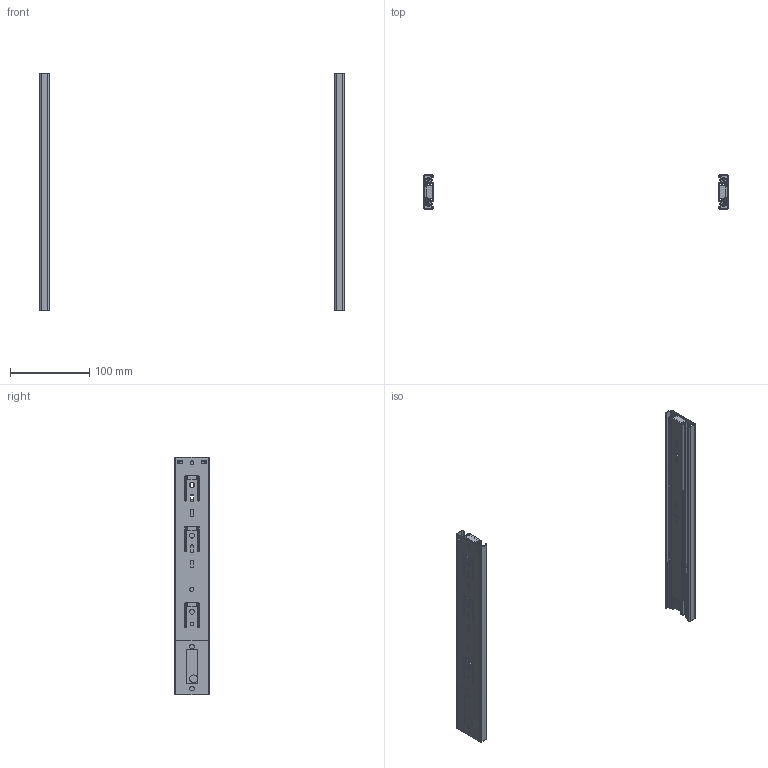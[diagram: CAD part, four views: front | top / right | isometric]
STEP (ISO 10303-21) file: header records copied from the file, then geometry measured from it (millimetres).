
FILE_DESCRIPTION(/* description */ (''),/* implementation_level */ '2;1');
FILE_NAME(/* name */ 'D:\$Workingspace\Designs\Katalog\Cadsoft\GTV Prowadnice\PK-S-H45-\PK-S-H45-300.stp',/* time_stamp */ '2018-09-20T13:04:11+02:00',/* author */ ('tomaszw'),/* organization */ (''),/* preprocessor_version */ 'ST-DEVELOPER v17',/* originating_system */ 'Autodesk Inventor 2019',/* authorisation */ '');
FILE_SCHEMA (('AUTOMOTIVE_DESIGN { 1 0 10303 214 3 1 1 }'));
Length unit declared in the file: millimetre
Products named in the file (6): PK-S-H45-300; PK-S-H45_1-300; PK-S-H45_2-300; PK-S-H45_3-300; PK-S-H45_4; PK-S-H45_5
Assembly tree (10 placements, depth 2):
  PK-S-H45-300
    PK-S-H45_1-300  x2
    PK-S-H45_2-300  x2
    PK-S-H45_3-300  x2
    PK-S-H45_4  x2
    PK-S-H45_5  x2
Bounding box: 384 x 44.5 x 300 mm (x, y, z)
Volume: 117416.7 mm3; surface area: 195783.3 mm2
Topology: 14 solids, 14 shells, 566 faces, 1572 edges, 1036 vertices
Faces by surface type: plane 302, cylinder 252, bspline 8, torus 4
Full cylindrical faces by diameter (mm): 4 x8, 4.5 x6, 4.9 x2, 5 x4, 6 x4, 6.4 x6, 10 x2
Entity records: 9888 total; most frequent: CARTESIAN_POINT 1793, DIRECTION 1626, ORIENTED_EDGE 1572, EDGE_CURVE 786, AXIS2_PLACEMENT_3D 554, LINE 518, VECTOR 518, VERTEX_POINT 518
